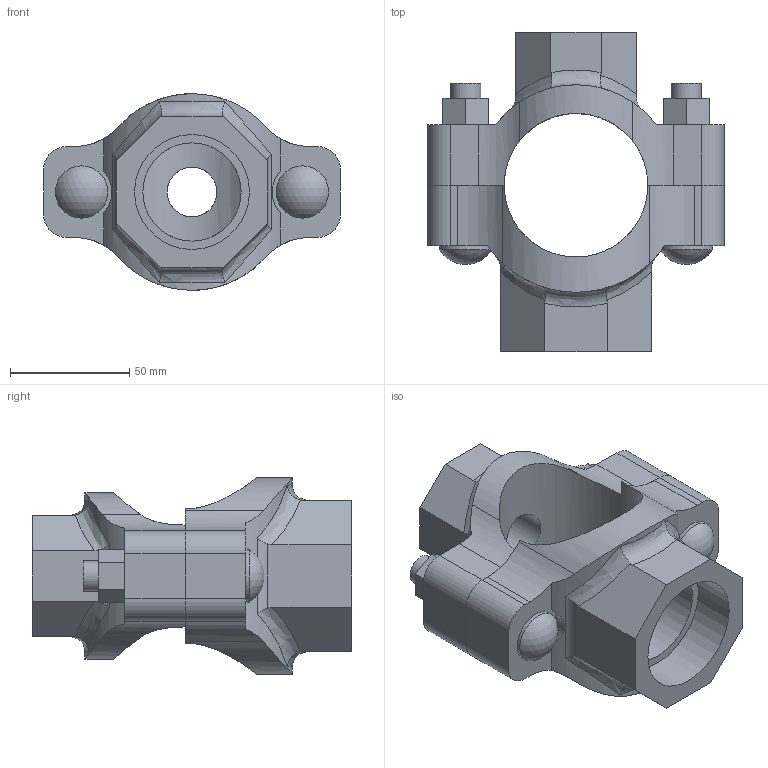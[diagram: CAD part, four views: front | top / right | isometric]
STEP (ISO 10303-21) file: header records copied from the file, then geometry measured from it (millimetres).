
FILE_DESCRIPTION(/* description */ ('VIC MECH-T BRANCH OUTLET CROSS STYLE 920N (THD)','CAx-IF Rec.Pracs.---Representation and Presentation of Product Manufacturing Information (PMI)---4.0---2014-10-13'),/* implementation_level */ '2;1');
FILE_NAME(/* name */ 'C:\Users\Vjadhav\AppData\Roaming\Autodesk\ApplicationPlugins\Back Up\Victaulic_IPS_Mechanical-Cross Outlet_Style 920N (FPT)\Victaulic_IPS_Mechanical-Cross Outlet_02.0x0.75x01.5 (50x20x40).stp',/* time_stamp */ '2020-08-06T18:56:02+05:00',/* author */ ('Vjadhav'),/* organization */ ('Victaulic'),/* preprocessor_version */ 'ST-DEVELOPER v17.2',/* originating_system */ 'Autodesk Inventor 2019',/* authorisation */ '');
FILE_SCHEMA (('AP242_MANAGED_MODEL_BASED_3D_ENGINEERING_MIM_LF { 1 0 10303 442 1 1 4 }'));
Length unit declared in the file: inch
Products named in the file (3): 920NT-02.0x0.75x01.5; 920NT-02.0x0.75; 920NT-02.0x01.5
Assembly tree (2 placements, depth 2):
  920NT-02.0x0.75x01.5
    920NT-02.0x0.75
    920NT-02.0x01.5
Bounding box: 124.71 x 134.11 x 82.55 mm (x, y, z)
Volume: 328424.8 mm3; surface area: 73469.6 mm2
Topology: 2 solids, 2 shells, 132 faces, 350 edges, 236 vertices
Faces by surface type: plane 68, cylinder 50, bspline 8, torus 4, sphere 2
Full cylindrical faces by diameter (mm): 12.7 x4, 20.93 x1, 21.982 x2, 26.67 x1, 41.275 x1, 48.26 x1
Entity records: 5084 total; most frequent: CARTESIAN_POINT 1559, ORIENTED_EDGE 700, DIRECTION 656, EDGE_CURVE 350, VERTEX_POINT 236, AXIS2_PLACEMENT_3D 235, LINE 186, VECTOR 186
